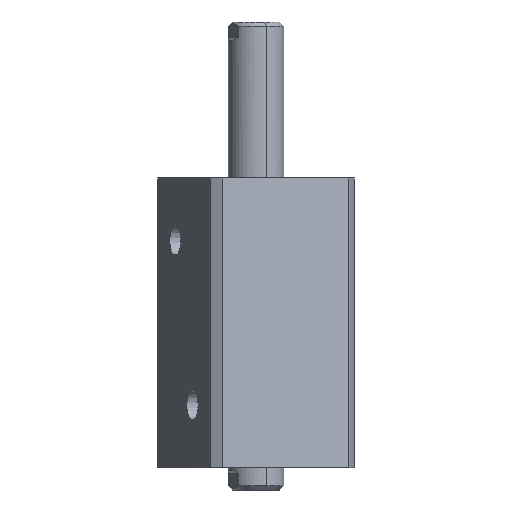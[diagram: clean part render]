
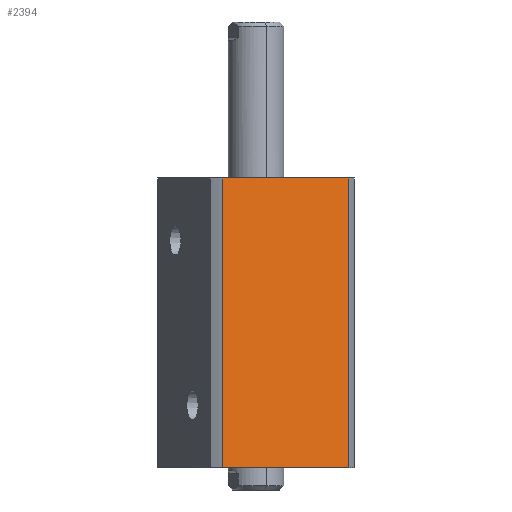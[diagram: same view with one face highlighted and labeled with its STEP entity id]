
A CAD part, front view. The second image highlights one B-rep face of the part: STEP entity #2394.
In plain terms, the highlighted planar face has unit normal (0.383, -0.924, 0) as drawn and (1, 0, 0) by its records, which use the part's own axes.
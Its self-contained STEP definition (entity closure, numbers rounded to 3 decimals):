
#271 = DIRECTION ( 'NONE',  ( 0., -1., 0. ) ) ;
#514 = ORIENTED_EDGE ( 'NONE', *, *, #9958, .T. ) ;
#518 = PLANE ( 'NONE',  #3804 ) ;
#978 = VECTOR ( 'NONE', #8646, 1000. ) ;
#1824 = DIRECTION ( 'NONE',  ( 0., 0., 1. ) ) ;
#1902 = CARTESIAN_POINT ( 'NONE',  ( 35., 35., 0. ) ) ;
#2259 = CARTESIAN_POINT ( 'NONE',  ( 35., 35., 130. ) ) ;
#2394 = ADVANCED_FACE ( 'NONE', ( #3605 ), #518, .F. ) ;
#2533 = EDGE_CURVE ( 'NONE', #2793, #8046, #3109, .T. ) ;
#2793 = VERTEX_POINT ( 'NONE', #3522 ) ;
#2897 = ORIENTED_EDGE ( 'NONE', *, *, #2533, .F. ) ;
#3109 = LINE ( 'NONE', #2259, #978 ) ;
#3367 = VECTOR ( 'NONE', #9870, 1000. ) ;
#3416 = DIRECTION ( 'NONE',  ( 0., 0., -1. ) ) ;
#3522 = CARTESIAN_POINT ( 'NONE',  ( 35., -30.615, 130. ) ) ;
#3605 = FACE_OUTER_BOUND ( 'NONE', #4456, .T. ) ;
#3614 = VECTOR ( 'NONE', #3416, 1000. ) ;
#3804 = AXIS2_PLACEMENT_3D ( 'NONE', #9863, #5084, #271 ) ;
#4456 = EDGE_LOOP ( 'NONE', ( #8530, #514, #9022, #2897 ) ) ;
#4563 = CARTESIAN_POINT ( 'NONE',  ( 35., -30.615, 0. ) ) ;
#4826 = VERTEX_POINT ( 'NONE', #4563 ) ;
#5084 = DIRECTION ( 'NONE',  ( -1., 0., 0. ) ) ;
#5247 = LINE ( 'NONE', #1902, #3367 ) ;
#5988 = LINE ( 'NONE', #7376, #3614 ) ;
#6381 = EDGE_CURVE ( 'NONE', #4826, #2793, #10354, .T. ) ;
#6866 = CARTESIAN_POINT ( 'NONE',  ( 35., 30.615, 130. ) ) ;
#7004 = CARTESIAN_POINT ( 'NONE',  ( 35., -30.615, -170. ) ) ;
#7376 = CARTESIAN_POINT ( 'NONE',  ( 35., 30.615, -170. ) ) ;
#7535 = VERTEX_POINT ( 'NONE', #8756 ) ;
#8046 = VERTEX_POINT ( 'NONE', #6866 ) ;
#8184 = VECTOR ( 'NONE', #1824, 1000. ) ;
#8530 = ORIENTED_EDGE ( 'NONE', *, *, #6381, .F. ) ;
#8646 = DIRECTION ( 'NONE',  ( 0., 1., 0. ) ) ;
#8756 = CARTESIAN_POINT ( 'NONE',  ( 35., 30.615, 0. ) ) ;
#9022 = ORIENTED_EDGE ( 'NONE', *, *, #9765, .F. ) ;
#9765 = EDGE_CURVE ( 'NONE', #8046, #7535, #5988, .T. ) ;
#9863 = CARTESIAN_POINT ( 'NONE',  ( 35., 35., 130. ) ) ;
#9870 = DIRECTION ( 'NONE',  ( 0., 1., 0. ) ) ;
#9958 = EDGE_CURVE ( 'NONE', #4826, #7535, #5247, .T. ) ;
#10354 = LINE ( 'NONE', #7004, #8184 ) ;
